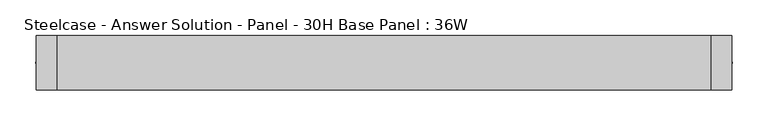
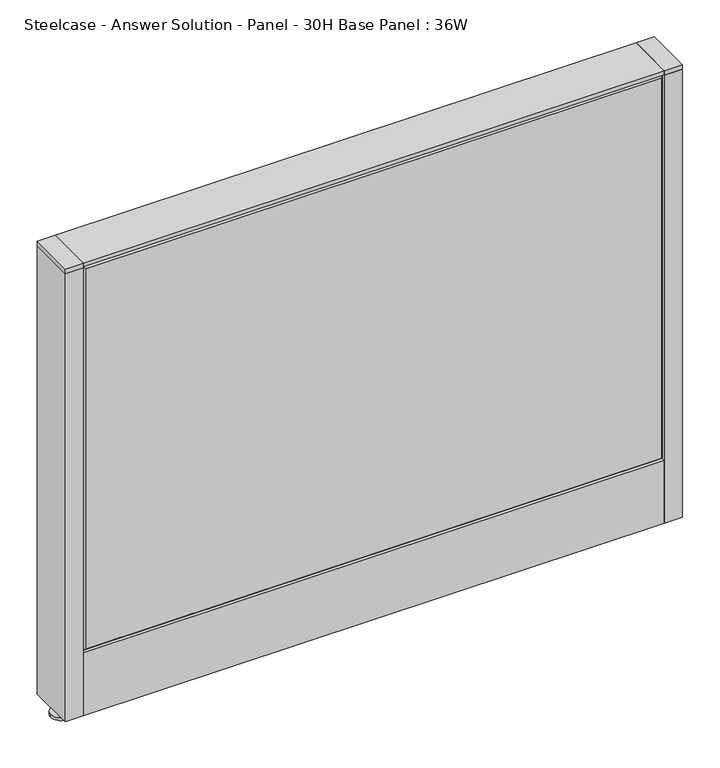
"""IFC4 building model written with IfcOpenShell, lengths in millimetres: furniture geometry, Steelcase - Answer Solution - Panel - 30H Base Panel : 36W."""

from ifc_helpers import new_model, si_unit, point, frame, frame_2d, origin, place, context, project, spatial, polyline, circle_curve, trimmed, segment, composite_curve, outline, extrude, faceted_brep, source, transform, mapped, element, save


def steelcase_answer_solution_panel_30h_base_panel_36w_9e83069b(model_context):
    return source(origin(), model_context, "Body", "SolidModel", [
        extrude(outline(composite_curve([segment(trimmed(circle_curve(frame_2d((471.424, 0.0320214)), 5.08), [point((476.504, 0.0320214))], [point((466.344, 0.0320214))], False, "CARTESIAN"), True, "CONTINUOUS"), segment(trimmed(circle_curve(frame_2d((471.424, 0.0320214)), 5.08), [point((466.344, 0.0320214))], [point((476.504, 0.0320214))], False, "CARTESIAN"), True, "CONTINUOUS")], self_intersect=False)), frame((0.0, 0.0, 5.0799671), z_axis=(0.0, 0.0, 1.0), x_axis=(1.0, 0.0, 0.0)), (0.0, 0.0, 1.0), 10.414),
        extrude(outline(composite_curve([segment(trimmed(circle_curve(frame_2d((471.424, 0.0320214)), 15.24), [point((486.664, 0.0320214))], [point((456.184, 0.0320214))], False, "CARTESIAN"), True, "CONTINUOUS"), segment(trimmed(circle_curve(frame_2d((471.424, 0.0320214)), 15.24), [point((456.184, 0.0320214))], [point((486.664, 0.0320214))], False, "CARTESIAN"), True, "CONTINUOUS")], self_intersect=False)), frame((0.0, 0.0, -3.29e-05), z_axis=(0.0, 0.0, 1.0), x_axis=(1.0, 0.0, 0.0)), (0.0, 0.0, 1.0), 5.08),
        extrude(outline(polyline([(485.775, 38.1320408), (485.775, -38.0679592), (457.2, -38.0679592), (457.2, 38.1320408), (485.775, 38.1320408)])), frame((0.0, 0.0, 761.0348), z_axis=(0.0, 0.0, 1.0), x_axis=(1.0, 0.0, 0.0)), (0.0, 0.0, 1.0), 7.3151671),
        extrude(outline(polyline([(485.775, 38.1320408), (485.775, -38.0679592), (457.2, -38.0679592), (457.2, 38.1320408), (485.775, 38.1320408)])), frame((0.0, 0.0, 15.4939671), z_axis=(0.0, 0.0, 1.0), x_axis=(1.0, 0.0, 0.0)), (0.0, 0.0, 1.0), 745.5408329),
        extrude(outline(composite_curve([segment(trimmed(circle_curve(frame_2d((-471.424, -0.0320214)), 5.08), [point((-476.504, -0.0320214))], [point((-466.344, -0.0320214))], False, "CARTESIAN"), True, "CONTINUOUS"), segment(trimmed(circle_curve(frame_2d((-471.424, -0.0320214)), 5.08), [point((-466.344, -0.0320214))], [point((-476.504, -0.0320214))], False, "CARTESIAN"), True, "CONTINUOUS")], self_intersect=False)), frame((0.0, 0.0, 5.0799671), z_axis=(0.0, 0.0, 1.0), x_axis=(1.0, 0.0, 0.0)), (0.0, 0.0, 1.0), 10.414),
        extrude(outline(composite_curve([segment(trimmed(circle_curve(frame_2d((-471.424, -0.0320214)), 15.24), [point((-486.664, -0.0320214))], [point((-456.184, -0.0320214))], False, "CARTESIAN"), True, "CONTINUOUS"), segment(trimmed(circle_curve(frame_2d((-471.424, -0.0320214)), 15.24), [point((-456.184, -0.0320214))], [point((-486.664, -0.0320214))], False, "CARTESIAN"), True, "CONTINUOUS")], self_intersect=False)), frame((0.0, 0.0, -3.29e-05), z_axis=(0.0, 0.0, 1.0), x_axis=(1.0, 0.0, 0.0)), (0.0, 0.0, 1.0), 5.08),
        extrude(outline(polyline([(-485.775, -38.1320408), (-485.775, 38.0679592), (-457.2, 38.0679592), (-457.2, -38.1320408), (-485.775, -38.1320408)])), frame((0.0, 0.0, 761.0348), z_axis=(0.0, 0.0, 1.0), x_axis=(1.0, 0.0, 0.0)), (0.0, 0.0, 1.0), 7.3151671),
        extrude(outline(polyline([(-485.775, -38.1320408), (-485.775, 38.0679592), (-457.2, 38.0679592), (-457.2, -38.1320408), (-485.775, -38.1320408)])), frame((0.0, 0.0, 15.4939671), z_axis=(0.0, 0.0, 1.0), x_axis=(1.0, 0.0, 0.0)), (0.0, 0.0, 1.0), 745.5408329),
        faceted_brep([(452.374, 38.1635011, 757.174), (452.374, 38.1635011, 125.476), (-452.374, 38.1635011, 125.476), (-452.374, 38.1635011, 757.174), (457.2, 33.3375011, 762.0), (-457.2, 33.3375011, 762.0), (-457.2, 33.3375011, 120.65), (457.2, 33.3375011, 120.65)], [[[0, 1, 2, 3]], [[4, 5, 6, 7]], [[4, 0, 3, 5]], [[5, 3, 2, 6]], [[6, 2, 1, 7]], [[7, 1, 0, 4]]]),
        faceted_brep([(452.374, -38.1635011, 757.174), (-452.374, -38.1635011, 757.174), (-452.374, -38.1635011, 125.476), (452.374, -38.1635011, 125.476), (457.2, -33.3375011, 762.0), (457.2, -33.3375011, 120.65), (-457.2, -33.3375011, 120.65), (-457.2, -33.3375011, 762.0)], [[[0, 1, 2, 3]], [[4, 5, 6, 7]], [[4, 7, 1, 0]], [[7, 6, 2, 1]], [[6, 5, 3, 2]], [[5, 4, 0, 3]]]),
        extrude(outline(polyline([(457.2, 38.1000194), (457.2, -38.1000194), (-457.2, -38.1000194), (-457.2, 38.1000194), (457.2, 38.1000194)])), frame((0.0, 0.0, 762.0), z_axis=(0.0, 0.0, 1.0), x_axis=(1.0, 0.0, 0.0)), (0.0, 0.0, 1.0), 6.35),
        extrude(outline(polyline([(37.3075215, 119.8575157), (25.4000011, 119.8575157), (25.4000011, 120.65), (38.1000194, 120.65), (38.1000194, 15.494), (37.3075215, 15.494), (37.3075215, 119.8575157)])), frame((-457.2, 0.0, 0.0), z_axis=(1.0, 0.0, 0.0), x_axis=(0.0, 1.0, 0.0)), (0.0, 0.0, 1.0), 914.4),
        extrude(outline(polyline([(-37.3075215, 119.8575157), (-37.3075215, 15.494), (-38.1000194, 15.494), (-38.1000194, 120.65), (-25.4000011, 120.65), (-25.4000011, 119.8575157), (-37.3075215, 119.8575157)])), frame((-457.2, 0.0, 0.0), z_axis=(1.0, 0.0, 0.0), x_axis=(0.0, 1.0, 0.0)), (0.0, 0.0, 1.0), 914.4),
    ])


if __name__ == "__main__":
    model = new_model("IFC4")
    model_context = context("Model", 3, world=origin())
    ifc_project = project(units=[si_unit("LENGTHUNIT", "METRE", prefix="MILLI")], contexts=[model_context])
    site = spatial("IfcSite", under=ifc_project)
    building = spatial("IfcBuilding", under=site)
    placement = place(None, origin())
    steelcase_answer_solution_panel_30h_base_panel_36w_shape = steelcase_answer_solution_panel_30h_base_panel_36w_9e83069b(model_context)
    element("IfcFurniture", 1, ObjectType="Steelcase - Answer Solution - Panel - 30H Base Panel : 36W", at=placement, inside=building, context=model_context, shape_type="MappedRepresentation", body=[
        mapped(steelcase_answer_solution_panel_30h_base_panel_36w_shape, transform((0.0, 0.0, 0.0), x_axis=(1.0, 0.0, 0.0), y_axis=(0.0, 1.0, 0.0), z_axis=(0.0, 0.0, 1.0))),
    ])
    save(model, "model.ifc")
